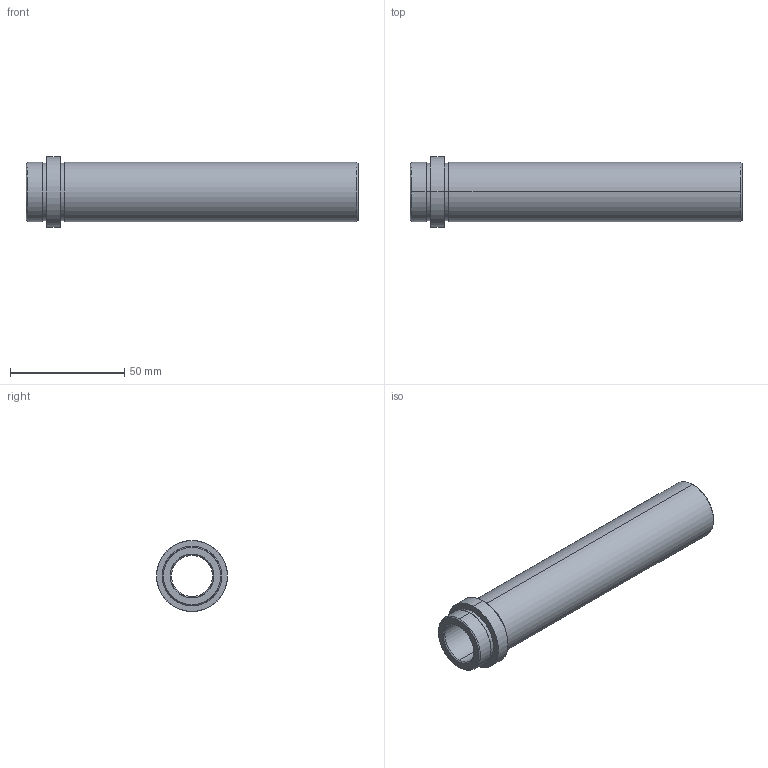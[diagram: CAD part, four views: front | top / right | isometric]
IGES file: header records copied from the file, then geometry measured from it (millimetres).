
Start section: SolidWorks IGES FILE using analytic representation for surfaces
Global section: file name: D:\zzzzz\Delta\D21\18\D21 - 18x136.IGS; native system: SolidWorks 2004 by SolidWorks Corporation; preprocessor: Version 5.3; author: Hkn; date: 080326.191818; units: millimetre
Bounding box: 145 x 31 x 31 mm (x, y, z)
Surface area: 21204.9 mm2 (no closed solid volume)
Topology: 0 solids, 0 shells, 26 faces, 528 edges, 528 vertices
Faces by surface type: revolution 20, bspline 6
